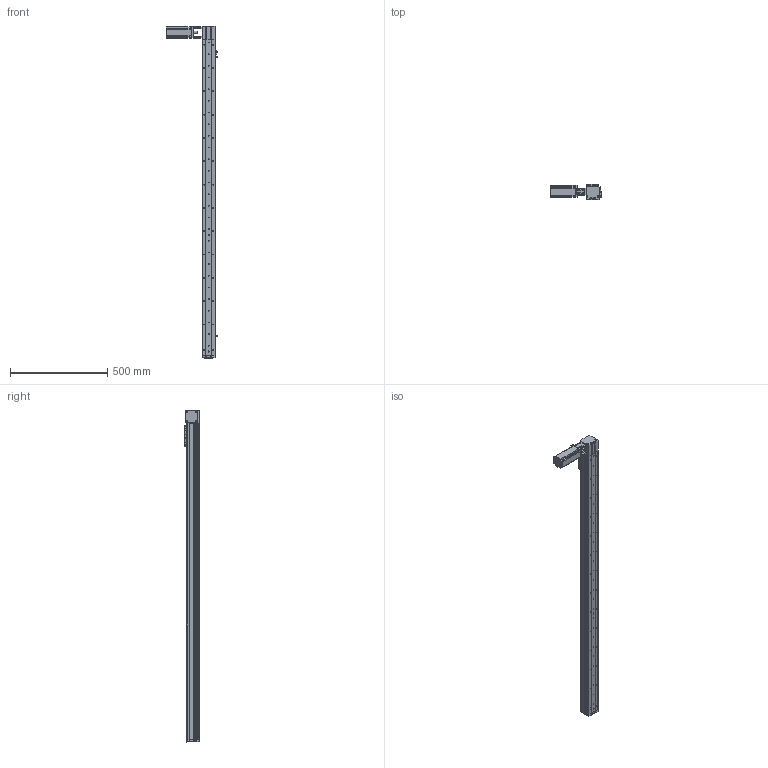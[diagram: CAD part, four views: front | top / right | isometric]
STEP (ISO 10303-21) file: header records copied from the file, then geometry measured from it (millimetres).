
FILE_DESCRIPTION (( 'STEP AP214' ), '1' );
FILE_NAME ('KSD68BS-S1450-MLT-CR.STEP', '2019-11-08T05:36:07', ( '微软用户' ), ( '微软中国' ), 'SwSTEP 2.0', 'SolidWorks 2014', '' );
FILE_SCHEMA (( 'AUTOMOTIVE_DESIGN' ));
Length unit declared in the file: millimetre
Products named in the file (13): 68单导轨全封闭同步带安装板; 感应片68宽全封闭; U倰嫖萇EEㄜSX672; 台达ECMA－C20604AS伺服电机（400W); KSD68BS 1450行程底板全封闭; KSD68BS-S1450-MLT-CR; 100遵鎮湛假蚾啣1; KSD68BS 1450行程盖板全封闭; 68遵裔啣揤啣1; 68宽单导轨全封闭丝杆传动安装板1防护罩; KSD68BS 1450行程侧板全封闭; 68宽单导轨全封闭同步带端板; 68单导轨全封闭同步带电机座右
Assembly tree (16 placements, depth 2):
  KSD68BS-S1450-MLT-CR
    KSD68BS 1450行程底板全封闭
    台达ECMA－C20604AS伺服电机（400W)
    U倰嫖萇EEㄜSX672  x3
    感应片68宽全封闭
    68单导轨全封闭同步带安装板
    68单导轨全封闭同步带电机座右
    68宽单导轨全封闭同步带端板
    KSD68BS 1450行程侧板全封闭  x2
    68宽单导轨全封闭丝杆传动安装板1防护罩
    68遵裔啣揤啣1  x2
    KSD68BS 1450行程盖板全封闭
    100遵鎮湛假蚾啣1
Bounding box: 266.4 x 77 x 1708.1 mm (x, y, z)
Volume: 3091955.4 mm3; surface area: 1219989.4 mm2
Topology: 17 solids, 17 shells, 1532 faces, 4408 edges, 2805 vertices
Faces by surface type: cylinder 744, plane 604, cone 184
Entity records: 49717 total; most frequent: CARTESIAN_POINT 8577, DIRECTION 7348, ORIENTED_EDGE 7028, EDGE_CURVE 3514, AXIS2_PLACEMENT_3D 2678, VERTEX_POINT 2303, LINE 1992, VECTOR 1992
